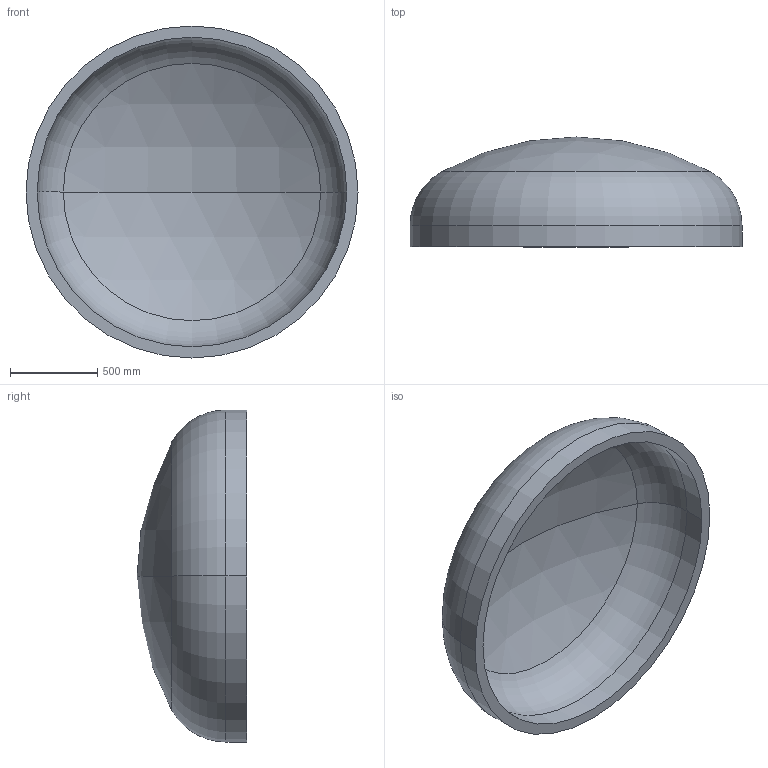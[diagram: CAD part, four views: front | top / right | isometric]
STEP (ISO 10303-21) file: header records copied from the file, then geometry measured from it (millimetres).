
FILE_DESCRIPTION (( 'STEP AP203' ), '1' );
FILE_NAME ('DIN 28013 Korbbogenform_-_Boden DIN 28013 - 1900 x 120 - I - s=64.step', '2016-07-01T13:16:10', ( '' ), ( '' ), 'SwSTEP 2.0', 'SolidWorks 2013', '' );
FILE_SCHEMA (( 'CONFIG_CONTROL_DESIGN' ));
Length unit declared in the file: millimetre
Products named in the file (1): DIN 28013 Korbbogenform_-_Boden DIN 28013 - 1900 x 120 - I - s=64
Bounding box: 1900 x 628.04 x 1900 mm (x, y, z)
Volume: 284396792.3 mm3; surface area: 9265125.5 mm2
Topology: 1 solids, 1 shells, 13 faces, 24 edges, 14 vertices
Faces by surface type: torus 4, cylinder 4, sphere 4, plane 1
Entity records: 407 total; most frequent: DIRECTION 72, CARTESIAN_POINT 52, ORIENTED_EDGE 48, AXIS2_PLACEMENT_3D 34, EDGE_CURVE 24, CIRCLE 20, VERTEX_POINT 14, EDGE_LOOP 14
